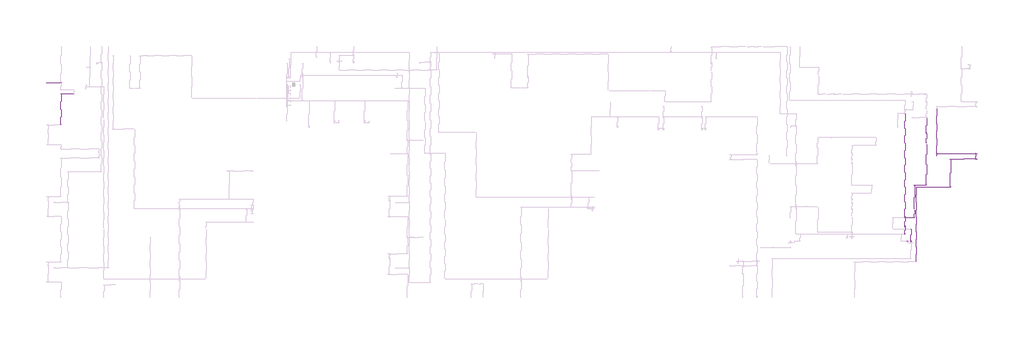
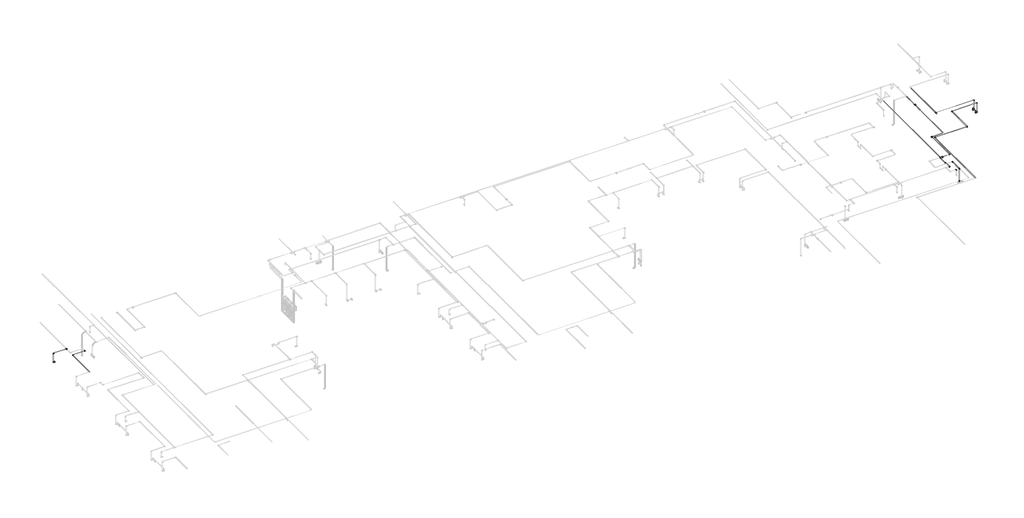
# One storey, part 13 of 40: 33 cable carrier segments, 25 cable carrier fittings, 3 alarms, 3 electric appliances.
"""IFC4 building model written with IfcOpenShell, lengths in millimetres."""

from ifc_helpers import new_model, si_unit, point, frame, frame_2d, origin, place, context, project, spatial, circle_curve, trimmed, segment, composite_curve, outline, extrude, transform, mapped, element, save
from ifc_brep_helpers import plane_surface, cylinder_surface, advanced_brep
from components import alarm_a2247946, cable_carrier_fitting_69f1a801, cable_carrier_fitting_8122f9af, cable_carrier_fitting_8fd13dfc, electric_appliance_5961a143

model = new_model("IFC4")

# Units and contexts
model_context = context("Model", 3, world=origin())
ifc_project = project(units=[si_unit("LENGTHUNIT", "METRE", prefix="MILLI")], contexts=[model_context])

# Site, building, storey
site = spatial("IfcSite", under=ifc_project)
building = spatial("IfcBuilding", under=site)
storey = spatial("IfcBuildingStorey", under=building, Name="1 этаж", Elevation=0.0)

# Alarms
placement = place(None, origin())
alarm_shape = alarm_a2247946(model_context)
element("IfcAlarm", 1, ObjectType="RBZ_ИзоляторШлейфа_Рубеж_ИЗ-1_прот.R3(плоскость) : ИЗ-1 прот.R3", at=placement, inside=storey, context=model_context, shape_type="MappedRepresentation", body=[
    mapped(alarm_shape, transform((17393.7902226, -535.3629895, 3200.74952), x_axis=(1.0, 0.0, 0.0), y_axis=(0.0, 1.0, 0.0), z_axis=(0.0, 0.0, 1.0))),
])
element("IfcAlarm", 2, ObjectType="RBZ_ИзоляторШлейфа_Рубеж_ИЗ-1_прот.R3(плоскость) : ИЗ-1 прот.R3", at=placement, inside=storey, context=model_context, shape_type="MappedRepresentation", body=[
    mapped(alarm_shape, transform((16630.1627365, -3840.5726854, 3200.74952), x_axis=(1.0, 0.0, 0.0), y_axis=(0.0, 1.0, 0.0), z_axis=(0.0, 0.0, 1.0))),
])
element("IfcAlarm", 3, ObjectType="RBZ_ИзоляторШлейфа_Рубеж_ИЗ-1_прот.R3(плоскость) : ИЗ-1 прот.R3", at=placement, inside=storey, context=model_context, shape_type="MappedRepresentation", body=[
    mapped(alarm_shape, transform((16127.6759979, -5905.3629895, 3200.74952), x_axis=(1.0, 0.0, 0.0), y_axis=(0.0, 1.0, 0.0), z_axis=(0.0, 0.0, 1.0))),
])

# Cable carrier fittings
cable_carrier_fitting_shape = cable_carrier_fitting_69f1a801(model_context)
element("IfcCableCarrierFitting", 4, ObjectType="ADSK_Поворот_Минимальный размер : Неспецифицируемый", at=placement, inside=storey, context=model_context, shape_type="MappedRepresentation", body=[
    mapped(cable_carrier_fitting_shape, transform((16403.9259968, -6629.1951839, 3190.0248857), x_axis=(0.0, 1.0, 0.0), y_axis=(-0.9999999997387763, 0.0, -2.2857109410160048e-05), z_axis=(-2.2857109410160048e-05, 0.0, 0.9999999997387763))),
])
element("IfcCableCarrierFitting", 5, ObjectType="ADSK_Поворот_Минимальный размер : Неспецифицируемый", at=placement, inside=storey, context=model_context, shape_type="MappedRepresentation", body=[
    mapped(cable_carrier_fitting_shape, transform((16630.1627365, -5905.3629895, 3189.99952), x_axis=(1.0, 0.0, 0.0), y_axis=(0.0, 1.0, 0.0), z_axis=(0.0, 0.0, 1.0))),
])
element("IfcCableCarrierFitting", 6, ObjectType="ADSK_Поворот_Минимальный размер : Неспецифицируемый", at=placement, inside=storey, context=model_context, shape_type="MappedRepresentation", body=[
    mapped(cable_carrier_fitting_shape, transform((-38370.3240021, 2662.1370105, 2535.1), x_axis=(-1.0, 0.0, 0.0), y_axis=(0.0, 0.0, 1.0), z_axis=(0.0, 1.0, 0.0))),
])
element("IfcCableCarrierFitting", 7, ObjectType="ADSK_Поворот_Минимальный размер : Неспецифицируемый", at=placement, inside=storey, context=model_context, shape_type="MappedRepresentation", body=[
    mapped(cable_carrier_fitting_shape, transform((-38370.3240021, 2662.1370105, 3187.0), x_axis=(0.0, 0.0, 1.0), y_axis=(1.0, 0.0, 0.0), z_axis=(0.0, 1.0, 0.0))),
])
element("IfcCableCarrierFitting", 8, ObjectType="ADSK_Поворот_Минимальный размер : Неспецифицируемый", at=placement, inside=storey, context=model_context, shape_type="MappedRepresentation", body=[
    mapped(cable_carrier_fitting_shape, transform((-37489.3240021, 1962.3808591, 3184.0), x_axis=(-1.0, 0.0, 0.0), y_axis=(0.0, -1.0, 0.0), z_axis=(0.0, 0.0, 1.0))),
])
element("IfcCableCarrierFitting", 9, ObjectType="ADSK_Поворот_Минимальный размер : Неспецифицируемый", at=placement, inside=storey, context=model_context, shape_type="MappedRepresentation", body=[
    mapped(cable_carrier_fitting_shape, transform((-36664.6678725, 1962.3808591, 3184.0), x_axis=(1.0, 0.0, 0.0), y_axis=(0.0, 1.0, 0.0), z_axis=(0.0, 0.0, 1.0))),
])
element("IfcCableCarrierFitting", 10, ObjectType="ADSK_Поворот_Минимальный размер : Неспецифицируемый", at=placement, inside=storey, context=model_context, shape_type="MappedRepresentation", body=[
    mapped(cable_carrier_fitting_shape, transform((20511.6759979, -2175.3629895, 2650.0), x_axis=(0.0, 0.0, 1.0), y_axis=(0.0, 1.0, 0.0), z_axis=(-1.0, 0.0, 0.0))),
])
element("IfcCableCarrierFitting", 11, ObjectType="ADSK_Поворот_Минимальный размер : Неспецифицируемый", at=placement, inside=storey, context=model_context, shape_type="MappedRepresentation", body=[
    mapped(cable_carrier_fitting_shape, transform((20511.6759979, -1835.3629895, 2650.0), x_axis=(0.0, 0.0, 1.0), y_axis=(0.0, -1.0, 0.0), z_axis=(1.0, 0.0, 0.0))),
])
element("IfcCableCarrierFitting", 12, ObjectType="ADSK_Поворот_Минимальный размер : Неспецифицируемый", at=placement, inside=storey, context=model_context, shape_type="MappedRepresentation", body=[
    mapped(cable_carrier_fitting_shape, transform((20611.8758035, -1835.3629895, 2535.0527319), x_axis=(1.0, 0.0, 0.0), y_axis=(0.0, 0.0, 1.0), z_axis=(0.0, -1.0, 0.0))),
])
element("IfcCableCarrierFitting", 13, ObjectType="ADSK_Поворот_Минимальный размер : Неспецифицируемый", at=placement, inside=storey, context=model_context, shape_type="MappedRepresentation", body=[
    mapped(cable_carrier_fitting_shape, transform((20611.8758035, -2175.3629895, 2535.0911237), x_axis=(1.0, 0.0, 0.0), y_axis=(0.0, 0.0, 1.0), z_axis=(0.0, -1.0, 0.0))),
])
element("IfcCableCarrierFitting", 14, ObjectType="ADSK_Поворот_Минимальный размер : Неспецифицируемый", at=placement, inside=storey, context=model_context, shape_type="MappedRepresentation", body=[
    mapped(cable_carrier_fitting_shape, transform((20611.8758035, -2175.3629895, 3187.0), x_axis=(0.0, 0.0, 1.0), y_axis=(-1.0, 0.0, 0.0), z_axis=(0.0, -1.0, 0.0))),
])
element("IfcCableCarrierFitting", 15, ObjectType="ADSK_Поворот_Минимальный размер : Неспецифицируемый", at=placement, inside=storey, context=model_context, shape_type="MappedRepresentation", body=[
    mapped(cable_carrier_fitting_shape, transform((16740.1759979, -3963.6860211, 3187.0), x_axis=(-1.0, 0.0, 0.0), y_axis=(0.0, -1.0, 0.0), z_axis=(0.0, 0.0, 1.0))),
])
element("IfcCableCarrierFitting", 16, ObjectType="ADSK_Поворот_Минимальный размер : Неспецифицируемый", at=placement, inside=storey, context=model_context, shape_type="MappedRepresentation", body=[
    mapped(cable_carrier_fitting_shape, transform((18914.6759979, -3963.6860211, 3187.0), x_axis=(1.0, 0.0, 0.0), y_axis=(0.0, 1.0, 0.0), z_axis=(0.0, 0.0, 1.0))),
])
element("IfcCableCarrierFitting", 17, ObjectType="ADSK_Поворот_Минимальный размер : Неспецифицируемый", at=placement, inside=storey, context=model_context, shape_type="MappedRepresentation", body=[
    mapped(cable_carrier_fitting_shape, transform((18914.6759979, -2175.3629895, 3187.0), x_axis=(-1.0, 0.0, 0.0), y_axis=(0.0, -1.0, 0.0), z_axis=(0.0, 0.0, 1.0))),
])
element("IfcCableCarrierFitting", 18, ObjectType="ADSK_Поворот_Минимальный размер : Неспецифицируемый", at=placement, inside=storey, context=model_context, shape_type="MappedRepresentation", body=[
    mapped(cable_carrier_fitting_shape, transform((16022.6759979, -6945.3629895, 3180.0), x_axis=(1.0, 0.0, 0.0), y_axis=(0.0, 1.0, 0.0), z_axis=(0.0, 0.0, 1.0))),
])
element("IfcCableCarrierFitting", 19, ObjectType="ADSK_Поворот_Минимальный размер : Неспецифицируемый", at=placement, inside=storey, context=model_context, shape_type="MappedRepresentation", body=[
    mapped(cable_carrier_fitting_shape, transform((16403.9259979, -7398.1631839, 2300.0), x_axis=(0.0, 1.0, 0.0), y_axis=(0.0, 0.0, 1.0), z_axis=(1.0, 0.0, 0.0))),
])
element("IfcCableCarrierFitting", 20, ObjectType="ADSK_Поворот_Минимальный размер : Неспецифицируемый", at=placement, inside=storey, context=model_context, shape_type="MappedRepresentation", body=[
    mapped(cable_carrier_fitting_shape, transform((20611.8758035, -1835.3629895, 3187.0), x_axis=(0.0, 0.0, 1.0), y_axis=(-1.0, 0.0, 0.0), z_axis=(0.0, -1.0, 0.0))),
])
element("IfcCableCarrierFitting", 21, ObjectType="ADSK_Поворот_Минимальный размер : Неспецифицируемый", at=placement, inside=storey, context=model_context, shape_type="MappedRepresentation", body=[
    mapped(cable_carrier_fitting_shape, transform((16199.9249252, -7398.1631839, 3180.0), x_axis=(0.0, 0.0, 1.0), y_axis=(-1.0, 0.0, 0.0), z_axis=(0.0, -1.0, 0.0))),
])
cable_carrier_fitting_2_shape = cable_carrier_fitting_8122f9af(model_context)
element("IfcCableCarrierFitting", 22, ObjectType="ADSK_Поворот_Минимальный размер : Неспецифицируемый", at=placement, inside=storey, context=model_context, shape_type="MappedRepresentation", body=[
    mapped(cable_carrier_fitting_2_shape, transform((16022.6759979, -5835.3629895, 3180.0), x_axis=(0.0, -1.0, 0.0), y_axis=(0.0, 0.0, -1.0), z_axis=(1.0, 0.0, 0.0))),
])
element("IfcCableCarrierFitting", 23, ObjectType="ADSK_Поворот_Минимальный размер : Неспецифицируемый", at=placement, inside=storey, context=model_context, shape_type="MappedRepresentation", body=[
    mapped(cable_carrier_fitting_2_shape, transform((16022.6759979, -5885.3629895, 3130.0), x_axis=(0.0, -0.7071067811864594, -0.7071067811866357), y_axis=(0.0, -0.7071067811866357, 0.7071067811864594), z_axis=(-1.0, 0.0, 0.0))),
])
element("IfcCableCarrierFitting", 24, ObjectType="ADSK_Поворот_Минимальный размер : Неспецифицируемый", at=placement, inside=storey, context=model_context, shape_type="MappedRepresentation", body=[
    mapped(cable_carrier_fitting_2_shape, transform((16022.6759979, -6425.3629895, 3130.0), x_axis=(0.0, -1.0, 0.0), y_axis=(0.0, 0.0, 1.0), z_axis=(-1.0, 0.0, 0.0))),
])
element("IfcCableCarrierFitting", 25, ObjectType="ADSK_Поворот_Минимальный размер : Неспецифицируемый", at=placement, inside=storey, context=model_context, shape_type="MappedRepresentation", body=[
    mapped(cable_carrier_fitting_2_shape, transform((16022.6759979, -6475.3629895, 3180.0), x_axis=(0.0, -0.7071067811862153, 0.7071067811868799), y_axis=(0.0, -0.7071067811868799, -0.7071067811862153), z_axis=(1.0, 0.0, 0.0))),
])
cable_carrier_fitting_3_shape = cable_carrier_fitting_8fd13dfc(model_context)
element("IfcCableCarrierFitting", 26, ObjectType="ADSK_Тройник : ПВХ", at=placement, inside=storey, context=model_context, shape_type="MappedRepresentation", body=[
    mapped(cable_carrier_fitting_3_shape, transform((-37489.3240021, 2662.1370105, 3187.0), x_axis=(0.0, -1.0, 0.0), y_axis=(1.0, 0.0, 0.0), z_axis=(0.0, 0.0, 1.0))),
])
element("IfcCableCarrierFitting", 27, ObjectType="ADSK_Тройник : ПВХ", at=placement, inside=storey, context=model_context, shape_type="MappedRepresentation", body=[
    mapped(cable_carrier_fitting_3_shape, transform((16403.9259974, -7398.1631839, 3190.0), x_axis=(0.0, 1.0, 0.0), y_axis=(0.0, 0.0, 1.0), z_axis=(1.0, 0.0, 0.0))),
])
element("IfcCableCarrierFitting", 28, ObjectType="ADSK_Тройник : ПВХ", at=placement, inside=storey, context=model_context, shape_type="MappedRepresentation", body=[
    mapped(cable_carrier_fitting_3_shape, transform((18037.6759979, -1835.3629895, 3187.0), x_axis=(0.0, 1.0, 0.0), y_axis=(-1.0, 0.0, 0.0), z_axis=(0.0, 0.0, 1.0))),
])

# Cable carrier segments
element("IfcCableCarrierSegment", 29, ObjectType="Гофрированная труба", at=placement, inside=storey, context=model_context, shape_type="SweptSolid", body=[
    extrude(outline(composite_curve([segment(trimmed(circle_curve(frame_2d((-5905.3629895, 3189.99952)), 10.0), [point((-5895.3629895, 3189.99952))], [point((-5905.3629895, 3179.99952))], False, "CARTESIAN"), True, "CONTINUOUS"), segment(trimmed(circle_curve(frame_2d((-5905.3629895, 3189.99952)), 10.0), [point((-5905.3629895, 3179.99952))], [point((-5915.3629895, 3189.99952))], False, "CARTESIAN"), True, "CONTINUOUS"), segment(trimmed(circle_curve(frame_2d((-5905.3629895, 3189.99952)), 10.0), [point((-5915.3629895, 3189.99952))], [point((-5905.3629895, 3199.99952))], False, "CARTESIAN"), True, "CONTINUOUS"), segment(trimmed(circle_curve(frame_2d((-5905.3629895, 3189.99952)), 10.0), [point((-5905.3629895, 3199.99952))], [point((-5895.3629895, 3189.99952))], False, "CARTESIAN"), True, "CONTINUOUS")], self_intersect=False)), frame((16153.6759979, 0.0, 0.0), z_axis=(1.0, 0.0, 0.0), x_axis=(0.0, 1.0, 0.0)), (0.0, 0.0, 1.0), 455.4867387),
])
element("IfcCableCarrierSegment", 30, ObjectType="Гофрированная труба", at=placement, inside=storey, context=model_context, shape_type="SweptSolid", body=[
    extrude(outline(composite_curve([segment(trimmed(circle_curve(frame_2d((3189.99952, 16630.1627365)), 10.0), [point((3189.99952, 16640.1627365))], [point((3199.99952, 16630.1627365))], False, "CARTESIAN"), True, "CONTINUOUS"), segment(trimmed(circle_curve(frame_2d((3189.99952, 16630.1627365)), 10.0), [point((3199.99952, 16630.1627365))], [point((3189.99952, 16620.1627365))], False, "CARTESIAN"), True, "CONTINUOUS"), segment(trimmed(circle_curve(frame_2d((3189.99952, 16630.1627365)), 10.0), [point((3189.99952, 16620.1627365))], [point((3179.99952, 16630.1627365))], False, "CARTESIAN"), True, "CONTINUOUS"), segment(trimmed(circle_curve(frame_2d((3189.99952, 16630.1627365)), 10.0), [point((3179.99952, 16630.1627365))], [point((3189.99952, 16640.1627365))], False, "CARTESIAN"), True, "CONTINUOUS")], self_intersect=False)), frame((0.0, -5884.3629895, 0.0), z_axis=(0.0, 1.0, 0.0), x_axis=(0.0, 0.0, 1.0)), (0.0, 0.0, 1.0), 432.5),
])
element("IfcCableCarrierSegment", 31, ObjectType="Гофрированная труба", at=placement, inside=storey, context=model_context, shape_type="SweptSolid", body=[
    extrude(outline(composite_curve([segment(trimmed(circle_curve(frame_2d((3189.99952, 16630.1627365)), 10.0), [point((3189.99952, 16620.1627365))], [point((3179.99952, 16630.1627365))], False, "CARTESIAN"), True, "CONTINUOUS"), segment(trimmed(circle_curve(frame_2d((3189.99952, 16630.1627365)), 10.0), [point((3179.99952, 16630.1627365))], [point((3189.99952, 16640.1627365))], False, "CARTESIAN"), True, "CONTINUOUS"), segment(trimmed(circle_curve(frame_2d((3189.99952, 16630.1627365)), 10.0), [point((3189.99952, 16640.1627365))], [point((3199.99952, 16630.1627365))], False, "CARTESIAN"), True, "CONTINUOUS"), segment(trimmed(circle_curve(frame_2d((3189.99952, 16630.1627365)), 10.0), [point((3199.99952, 16630.1627365))], [point((3189.99952, 16620.1627365))], False, "CARTESIAN"), True, "CONTINUOUS")], self_intersect=False)), frame((0.0, -5358.8629895, 0.0), z_axis=(0.0, 1.0, 0.0), x_axis=(0.0, 0.0, 1.0)), (0.0, 0.0, 1.0), 1492.290304),
])
element("IfcCableCarrierSegment", 32, ObjectType="Гофрированная труба", at=placement, inside=storey, context=model_context, shape_type="SweptSolid", body=[
    extrude(outline(composite_curve([segment(trimmed(circle_curve(frame_2d((-3840.5726854, 3189.99952)), 10.0), [point((-3830.5726854, 3189.99952))], [point((-3840.5726854, 3179.99952))], False, "CARTESIAN"), True, "CONTINUOUS"), segment(trimmed(circle_curve(frame_2d((-3840.5726854, 3189.99952)), 10.0), [point((-3840.5726854, 3179.99952))], [point((-3850.5726854, 3189.99952))], False, "CARTESIAN"), True, "CONTINUOUS"), segment(trimmed(circle_curve(frame_2d((-3840.5726854, 3189.99952)), 10.0), [point((-3850.5726854, 3189.99952))], [point((-3840.5726854, 3199.99952))], False, "CARTESIAN"), True, "CONTINUOUS"), segment(trimmed(circle_curve(frame_2d((-3840.5726854, 3189.99952)), 10.0), [point((-3840.5726854, 3199.99952))], [point((-3830.5726854, 3189.99952))], False, "CARTESIAN"), True, "CONTINUOUS")], self_intersect=False)), frame((16656.1627365, 0.0, 0.0), z_axis=(1.0, 0.0, 0.0), x_axis=(0.0, 1.0, 0.0)), (0.0, 0.0, 1.0), 691.1274861),
])
element("IfcCableCarrierSegment", 33, ObjectType="Гофрированная труба", at=placement, inside=storey, context=model_context, shape_type="SweptSolid", body=[
    extrude(outline(composite_curve([segment(trimmed(circle_curve(frame_2d((3189.99952, 17393.7902226)), 10.0), [point((3189.99952, 17403.7902226))], [point((3199.99952, 17393.7902226))], False, "CARTESIAN"), True, "CONTINUOUS"), segment(trimmed(circle_curve(frame_2d((3189.99952, 17393.7902226)), 10.0), [point((3199.99952, 17393.7902226))], [point((3189.99952, 17383.7902226))], False, "CARTESIAN"), True, "CONTINUOUS"), segment(trimmed(circle_curve(frame_2d((3189.99952, 17393.7902226)), 10.0), [point((3189.99952, 17383.7902226))], [point((3179.99952, 17393.7902226))], False, "CARTESIAN"), True, "CONTINUOUS"), segment(trimmed(circle_curve(frame_2d((3189.99952, 17393.7902226)), 10.0), [point((3179.99952, 17393.7902226))], [point((3189.99952, 17403.7902226))], False, "CARTESIAN"), True, "CONTINUOUS")], self_intersect=False)), frame((0.0, -3794.0726854, 0.0), z_axis=(0.0, 1.0, 0.0), x_axis=(0.0, 0.0, 1.0)), (0.0, 0.0, 1.0), 2525.0019021),
])
element("IfcCableCarrierSegment", 34, ObjectType="Гофрированная труба", at=placement, inside=storey, context=model_context, shape_type="SweptSolid", body=[
    extrude(outline(composite_curve([segment(trimmed(circle_curve(frame_2d((3189.99952, 17393.7902226)), 10.0), [point((3189.99952, 17383.7902226))], [point((3179.99952, 17393.7902226))], False, "CARTESIAN"), True, "CONTINUOUS"), segment(trimmed(circle_curve(frame_2d((3189.99952, 17393.7902226)), 10.0), [point((3179.99952, 17393.7902226))], [point((3189.99952, 17403.7902226))], False, "CARTESIAN"), True, "CONTINUOUS"), segment(trimmed(circle_curve(frame_2d((3189.99952, 17393.7902226)), 10.0), [point((3189.99952, 17403.7902226))], [point((3199.99952, 17393.7902226))], False, "CARTESIAN"), True, "CONTINUOUS"), segment(trimmed(circle_curve(frame_2d((3189.99952, 17393.7902226)), 10.0), [point((3199.99952, 17393.7902226))], [point((3189.99952, 17383.7902226))], False, "CARTESIAN"), True, "CONTINUOUS")], self_intersect=False)), frame((0.0, -1176.0707833, 0.0), z_axis=(0.0, 1.0, 0.0), x_axis=(0.0, 0.0, 1.0)), (0.0, 0.0, 1.0), 614.7077939),
])
element("IfcCableCarrierSegment", 35, ObjectType="Гофрированная труба", at=placement, inside=storey, context=model_context, shape_type="SweptSolid", body=[
    extrude(outline(composite_curve([segment(trimmed(circle_curve(frame_2d((3189.99952, 17393.7902226)), 10.0), [point((3190.0043576, 17403.7902215))], [point((3199.9995188, 17393.785385))], False, "CARTESIAN"), True, "CONTINUOUS"), segment(trimmed(circle_curve(frame_2d((3189.99952, 17393.7902226)), 10.0), [point((3199.9995188, 17393.785385))], [point((3189.9946824, 17383.7902238))], False, "CARTESIAN"), True, "CONTINUOUS"), segment(trimmed(circle_curve(frame_2d((3189.99952, 17393.7902226)), 10.0), [point((3189.9946824, 17383.7902238))], [point((3179.9995212, 17393.7950603))], False, "CARTESIAN"), True, "CONTINUOUS"), segment(trimmed(circle_curve(frame_2d((3189.99952, 17393.7902226)), 10.0), [point((3179.9995212, 17393.7950603))], [point((3190.0043576, 17403.7902215))], False, "CARTESIAN"), True, "CONTINUOUS")], self_intersect=False)), frame((0.0, -509.3629895, 0.0), z_axis=(0.0, 1.0, 0.0), x_axis=(0.0, 0.0, 1.0)), (0.0, 0.0, 1.0), 934.0000042),
])
element("IfcCableCarrierSegment", 36, ObjectType="Гофрированная труба", at=placement, inside=storey, context=model_context, shape_type="SweptSolid", body=[
    extrude(outline(composite_curve([segment(trimmed(circle_curve(frame_2d((2662.1370105, 3187.0)), 10.0), [point((2652.1370105, 3187.0))], [point((2662.1370105, 3197.0))], False, "CARTESIAN"), True, "CONTINUOUS"), segment(trimmed(circle_curve(frame_2d((2662.1370105, 3187.0)), 10.0), [point((2662.1370105, 3197.0))], [point((2672.1370105, 3187.0))], False, "CARTESIAN"), True, "CONTINUOUS"), segment(trimmed(circle_curve(frame_2d((2662.1370105, 3187.0)), 10.0), [point((2672.1370105, 3187.0))], [point((2662.1370105, 3177.0))], False, "CARTESIAN"), True, "CONTINUOUS"), segment(trimmed(circle_curve(frame_2d((2662.1370105, 3187.0)), 10.0), [point((2662.1370105, 3177.0))], [point((2652.1370105, 3187.0))], False, "CARTESIAN"), True, "CONTINUOUS")], self_intersect=False)), frame((-38349.3240021, 0.0, 0.0), z_axis=(1.0, 0.0, 0.0), x_axis=(0.0, 1.0, 0.0)), (0.0, 0.0, 1.0), 830.0),
])
element("IfcCableCarrierSegment", 37, ObjectType="Гофрированная труба", at=placement, inside=storey, context=model_context, shape_type="SweptSolid", body=[
    extrude(outline(composite_curve([segment(trimmed(circle_curve(frame_2d((-38370.3240021, 2662.1370105)), 10.0), [point((-38380.3240021, 2662.1370105))], [point((-38370.3240021, 2672.1370105))], False, "CARTESIAN"), True, "CONTINUOUS"), segment(trimmed(circle_curve(frame_2d((-38370.3240021, 2662.1370105)), 10.0), [point((-38370.3240021, 2672.1370105))], [point((-38360.3240021, 2662.1370105))], False, "CARTESIAN"), True, "CONTINUOUS"), segment(trimmed(circle_curve(frame_2d((-38370.3240021, 2662.1370105)), 10.0), [point((-38360.3240021, 2662.1370105))], [point((-38370.3240021, 2652.1370105))], False, "CARTESIAN"), True, "CONTINUOUS"), segment(trimmed(circle_curve(frame_2d((-38370.3240021, 2662.1370105)), 10.0), [point((-38370.3240021, 2652.1370105))], [point((-38380.3240021, 2662.1370105))], False, "CARTESIAN"), True, "CONTINUOUS")], self_intersect=False)), frame((0.0, 0.0, 2556.1), z_axis=(0.0, 0.0, 1.0), x_axis=(1.0, 0.0, 0.0)), (0.0, 0.0, 1.0), 609.9),
])
element("IfcCableCarrierSegment", 38, ObjectType="Гофрированная труба", at=placement, inside=storey, context=model_context, shape_type="SweptSolid", body=[
    extrude(outline(composite_curve([segment(trimmed(circle_curve(frame_2d((0.0, 10.0)), 10.0), [point((-10.0, 10.0))], [point((0.0, 20.0))], False, "CARTESIAN"), True, "CONTINUOUS"), segment(trimmed(circle_curve(frame_2d((0.0, 10.0)), 10.0), [point((0.0, 20.0))], [point((10.0, 10.0))], False, "CARTESIAN"), True, "CONTINUOUS"), segment(trimmed(circle_curve(frame_2d((0.0, 10.0)), 10.0), [point((10.0, 10.0))], [point((0.0, 0.0))], False, "CARTESIAN"), True, "CONTINUOUS"), segment(trimmed(circle_curve(frame_2d((0.0, 10.0)), 10.0), [point((0.0, 0.0))], [point((-10.0, 10.0))], False, "CARTESIAN"), True, "CONTINUOUS")], self_intersect=False)), frame((-38289.3254815, 2662.1370105, 2525.0911238), z_axis=(-0.9999999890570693, 0.0, 0.00014793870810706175), x_axis=(0.0, -1.0, 0.0)), (0.0, 0.0, 1.0), 60.0000007),
])
element("IfcCableCarrierSegment", 39, ObjectType="Гофрированная труба", at=placement, inside=storey, context=model_context, shape_type="SweptSolid", body=[
    extrude(outline(composite_curve([segment(trimmed(circle_curve(frame_2d((1962.3808591, 3184.0)), 10.0), [point((1952.3808591, 3184.0))], [point((1962.3808591, 3194.0))], False, "CARTESIAN"), True, "CONTINUOUS"), segment(trimmed(circle_curve(frame_2d((1962.3808591, 3184.0)), 10.0), [point((1962.3808591, 3194.0))], [point((1972.3808591, 3184.0))], False, "CARTESIAN"), True, "CONTINUOUS"), segment(trimmed(circle_curve(frame_2d((1962.3808591, 3184.0)), 10.0), [point((1972.3808591, 3184.0))], [point((1962.3808591, 3174.0))], False, "CARTESIAN"), True, "CONTINUOUS"), segment(trimmed(circle_curve(frame_2d((1962.3808591, 3184.0)), 10.0), [point((1962.3808591, 3174.0))], [point((1952.3808591, 3184.0))], False, "CARTESIAN"), True, "CONTINUOUS")], self_intersect=False)), frame((-37468.3240021, 0.0, 0.0), z_axis=(1.0, 0.0, 0.0), x_axis=(0.0, 1.0, 0.0)), (0.0, 0.0, 1.0), 782.6561296),
])
element("IfcCableCarrierSegment", 40, ObjectType="Гофрированная труба", at=placement, inside=storey, context=model_context, shape_type="SweptSolid", body=[
    extrude(outline(composite_curve([segment(trimmed(circle_curve(frame_2d((3184.0, -37489.3240021)), 10.0), [point((3184.0, -37479.3240021))], [point((3194.0, -37489.3240021))], False, "CARTESIAN"), True, "CONTINUOUS"), segment(trimmed(circle_curve(frame_2d((3184.0, -37489.3240021)), 10.0), [point((3194.0, -37489.3240021))], [point((3184.0, -37499.3240021))], False, "CARTESIAN"), True, "CONTINUOUS"), segment(trimmed(circle_curve(frame_2d((3184.0, -37489.3240021)), 10.0), [point((3184.0, -37499.3240021))], [point((3174.0, -37489.3240021))], False, "CARTESIAN"), True, "CONTINUOUS"), segment(trimmed(circle_curve(frame_2d((3184.0, -37489.3240021)), 10.0), [point((3174.0, -37489.3240021))], [point((3184.0, -37479.3240021))], False, "CARTESIAN"), True, "CONTINUOUS")], self_intersect=False)), frame((0.0, -2.8629895, 0.0), z_axis=(0.0, 1.0, 0.0), x_axis=(0.0, 0.0, 1.0)), (0.0, 0.0, 1.0), 1944.2438486),
])
element("IfcCableCarrierSegment", 41, ObjectType="Гофрированная труба", at=placement, inside=storey, context=model_context, shape_type="SweptSolid", body=[
    extrude(outline(composite_curve([segment(trimmed(circle_curve(frame_2d((3187.0, 18037.6759979)), 10.0), [point((3187.0, 18027.6759979))], [point((3177.0, 18037.6759979))], False, "CARTESIAN"), True, "CONTINUOUS"), segment(trimmed(circle_curve(frame_2d((3187.0, 18037.6759979)), 10.0), [point((3177.0, 18037.6759979))], [point((3187.0, 18047.6759979))], False, "CARTESIAN"), True, "CONTINUOUS"), segment(trimmed(circle_curve(frame_2d((3187.0, 18037.6759979)), 10.0), [point((3187.0, 18047.6759979))], [point((3197.0, 18037.6759979))], False, "CARTESIAN"), True, "CONTINUOUS"), segment(trimmed(circle_curve(frame_2d((3187.0, 18037.6759979)), 10.0), [point((3197.0, 18037.6759979))], [point((3187.0, 18027.6759979))], False, "CARTESIAN"), True, "CONTINUOUS")], self_intersect=False)), frame((0.0, -1982.8629895, 0.0), z_axis=(0.0, 1.0, 0.0), x_axis=(0.0, 0.0, 1.0)), (0.0, 0.0, 1.0), 117.5),
])
element("IfcCableCarrierSegment", 42, ObjectType="Гофрированная труба", at=placement, inside=storey, context=model_context, shape_type="SweptSolid", body=[
    extrude(outline(composite_curve([segment(trimmed(circle_curve(frame_2d((2650.0, 20511.6759979)), 10.0), [point((2650.0, 20521.6759979))], [point((2660.0, 20511.6759979))], False, "CARTESIAN"), True, "CONTINUOUS"), segment(trimmed(circle_curve(frame_2d((2650.0, 20511.6759979)), 10.0), [point((2660.0, 20511.6759979))], [point((2650.0, 20501.6759979))], False, "CARTESIAN"), True, "CONTINUOUS"), segment(trimmed(circle_curve(frame_2d((2650.0, 20511.6759979)), 10.0), [point((2650.0, 20501.6759979))], [point((2640.0, 20511.6759979))], False, "CARTESIAN"), True, "CONTINUOUS"), segment(trimmed(circle_curve(frame_2d((2650.0, 20511.6759979)), 10.0), [point((2640.0, 20511.6759979))], [point((2650.0, 20521.6759979))], False, "CARTESIAN"), True, "CONTINUOUS")], self_intersect=False)), frame((0.0, -2154.3629895, 0.0), z_axis=(0.0, 1.0, 0.0), x_axis=(0.0, 0.0, 1.0)), (0.0, 0.0, 1.0), 298.0),
])
element("IfcCableCarrierSegment", 43, ObjectType="Гофрированная труба", at=placement, inside=storey, context=model_context, shape_type="SweptSolid", body=[
    extrude(outline(composite_curve([segment(trimmed(circle_curve(frame_2d((20511.6759979, -1835.3629895)), 10.0), [point((20501.6759979, -1835.3629895))], [point((20511.6759979, -1825.3629895))], False, "CARTESIAN"), True, "CONTINUOUS"), segment(trimmed(circle_curve(frame_2d((20511.6759979, -1835.3629895)), 10.0), [point((20511.6759979, -1825.3629895))], [point((20521.6759979, -1835.3629895))], False, "CARTESIAN"), True, "CONTINUOUS"), segment(trimmed(circle_curve(frame_2d((20511.6759979, -1835.3629895)), 10.0), [point((20521.6759979, -1835.3629895))], [point((20511.6759979, -1845.3629895))], False, "CARTESIAN"), True, "CONTINUOUS"), segment(trimmed(circle_curve(frame_2d((20511.6759979, -1835.3629895)), 10.0), [point((20511.6759979, -1845.3629895))], [point((20501.6759979, -1835.3629895))], False, "CARTESIAN"), True, "CONTINUOUS")], self_intersect=False)), frame((0.0, 0.0, 2564.0823197), z_axis=(0.0, 0.0, 1.0), x_axis=(1.0, 0.0, 0.0)), (0.0, 0.0, 1.0), 64.9176803),
])
element("IfcCableCarrierSegment", 44, ObjectType="Гофрированная труба", at=placement, inside=storey, context=model_context, shape_type="SweptSolid", body=[
    extrude(outline(composite_curve([segment(trimmed(circle_curve(frame_2d((20511.6759979, -2175.3629895)), 10.0), [point((20501.6759979, -2175.3629895))], [point((20511.6759979, -2165.3629895))], False, "CARTESIAN"), True, "CONTINUOUS"), segment(trimmed(circle_curve(frame_2d((20511.6759979, -2175.3629895)), 10.0), [point((20511.6759979, -2165.3629895))], [point((20521.6759979, -2175.3629895))], False, "CARTESIAN"), True, "CONTINUOUS"), segment(trimmed(circle_curve(frame_2d((20511.6759979, -2175.3629895)), 10.0), [point((20521.6759979, -2175.3629895))], [point((20511.6759979, -2185.3629895))], False, "CARTESIAN"), True, "CONTINUOUS"), segment(trimmed(circle_curve(frame_2d((20511.6759979, -2175.3629895)), 10.0), [point((20511.6759979, -2185.3629895))], [point((20501.6759979, -2175.3629895))], False, "CARTESIAN"), True, "CONTINUOUS")], self_intersect=False)), frame((0.0, 0.0, 2564.1207114), z_axis=(0.0, 0.0, 1.0), x_axis=(1.0, 0.0, 0.0)), (0.0, 0.0, 1.0), 64.8792886),
])
element("IfcCableCarrierSegment", 45, ObjectType="Гофрированная труба", at=placement, inside=storey, context=model_context, shape_type="SweptSolid", body=[
    extrude(outline(composite_curve([segment(trimmed(circle_curve(frame_2d((-1835.3629895, 3187.0)), 10.0), [point((-1825.3629895, 3187.0))], [point((-1835.3629895, 3177.0))], False, "CARTESIAN"), True, "CONTINUOUS"), segment(trimmed(circle_curve(frame_2d((-1835.3629895, 3187.0)), 10.0), [point((-1835.3629895, 3177.0))], [point((-1845.3629895, 3187.0))], False, "CARTESIAN"), True, "CONTINUOUS"), segment(trimmed(circle_curve(frame_2d((-1835.3629895, 3187.0)), 10.0), [point((-1845.3629895, 3187.0))], [point((-1835.3629895, 3197.0))], False, "CARTESIAN"), True, "CONTINUOUS"), segment(trimmed(circle_curve(frame_2d((-1835.3629895, 3187.0)), 10.0), [point((-1835.3629895, 3197.0))], [point((-1825.3629895, 3187.0))], False, "CARTESIAN"), True, "CONTINUOUS")], self_intersect=False)), frame((18067.6759979, 0.0, 0.0), z_axis=(1.0, 0.0, 0.0), x_axis=(0.0, 1.0, 0.0)), (0.0, 0.0, 1.0), 2523.1998056),
])
element("IfcCableCarrierSegment", 46, ObjectType="Гофрированная труба", at=placement, inside=storey, context=model_context, shape_type="SweptSolid", body=[
    extrude(outline(composite_curve([segment(trimmed(circle_curve(frame_2d((-1835.3629895, 2535.0527319)), 10.0), [point((-1845.3629895, 2535.0527319))], [point((-1835.3629895, 2545.0527319))], False, "CARTESIAN"), True, "CONTINUOUS"), segment(trimmed(circle_curve(frame_2d((-1835.3629895, 2535.0527319)), 10.0), [point((-1835.3629895, 2545.0527319))], [point((-1825.3629895, 2535.0527319))], False, "CARTESIAN"), True, "CONTINUOUS"), segment(trimmed(circle_curve(frame_2d((-1835.3629895, 2535.0527319)), 10.0), [point((-1825.3629895, 2535.0527319))], [point((-1835.3629895, 2525.0527319))], False, "CARTESIAN"), True, "CONTINUOUS"), segment(trimmed(circle_curve(frame_2d((-1835.3629895, 2535.0527319)), 10.0), [point((-1835.3629895, 2525.0527319))], [point((-1845.3629895, 2535.0527319))], False, "CARTESIAN"), True, "CONTINUOUS")], self_intersect=False)), frame((20514.6759979, 0.0, 0.0), z_axis=(1.0, 0.0, 0.0), x_axis=(0.0, 1.0, 0.0)), (0.0, 0.0, 1.0), 76.1998056),
])
element("IfcCableCarrierSegment", 47, ObjectType="Гофрированная труба", at=placement, inside=storey, context=model_context, shape_type="SweptSolid", body=[
    extrude(outline(composite_curve([segment(trimmed(circle_curve(frame_2d((20611.8758035, -1835.3629895)), 10.0), [point((20601.8758035, -1835.3629895))], [point((20611.8758035, -1825.3629895))], False, "CARTESIAN"), True, "CONTINUOUS"), segment(trimmed(circle_curve(frame_2d((20611.8758035, -1835.3629895)), 10.0), [point((20611.8758035, -1825.3629895))], [point((20621.8758035, -1835.3629895))], False, "CARTESIAN"), True, "CONTINUOUS"), segment(trimmed(circle_curve(frame_2d((20611.8758035, -1835.3629895)), 10.0), [point((20621.8758035, -1835.3629895))], [point((20611.8758035, -1845.3629895))], False, "CARTESIAN"), True, "CONTINUOUS"), segment(trimmed(circle_curve(frame_2d((20611.8758035, -1835.3629895)), 10.0), [point((20611.8758035, -1845.3629895))], [point((20601.8758035, -1835.3629895))], False, "CARTESIAN"), True, "CONTINUOUS")], self_intersect=False)), frame((0.0, 0.0, 2556.0527319), z_axis=(0.0, 0.0, 1.0), x_axis=(1.0, 0.0, 0.0)), (0.0, 0.0, 1.0), 609.9472681),
])
element("IfcCableCarrierSegment", 48, ObjectType="Гофрированная труба", at=placement, inside=storey, context=model_context, shape_type="SweptSolid", body=[
    extrude(outline(composite_curve([segment(trimmed(circle_curve(frame_2d((-2175.3629895, 3187.0)), 10.0), [point((-2165.3629895, 3187.0))], [point((-2175.3629895, 3177.0))], False, "CARTESIAN"), True, "CONTINUOUS"), segment(trimmed(circle_curve(frame_2d((-2175.3629895, 3187.0)), 10.0), [point((-2175.3629895, 3177.0))], [point((-2185.3629895, 3187.0))], False, "CARTESIAN"), True, "CONTINUOUS"), segment(trimmed(circle_curve(frame_2d((-2175.3629895, 3187.0)), 10.0), [point((-2185.3629895, 3187.0))], [point((-2175.3629895, 3197.0))], False, "CARTESIAN"), True, "CONTINUOUS"), segment(trimmed(circle_curve(frame_2d((-2175.3629895, 3187.0)), 10.0), [point((-2175.3629895, 3197.0))], [point((-2165.3629895, 3187.0))], False, "CARTESIAN"), True, "CONTINUOUS")], self_intersect=False)), frame((18935.6759979, 0.0, 0.0), z_axis=(1.0, 0.0, 0.0), x_axis=(0.0, 1.0, 0.0)), (0.0, 0.0, 1.0), 1655.1998056),
])
element("IfcCableCarrierSegment", 49, ObjectType="Гофрированная труба", at=placement, inside=storey, context=model_context, shape_type="SweptSolid", body=[
    extrude(outline(composite_curve([segment(trimmed(circle_curve(frame_2d((-2175.3629895, 2535.0911237)), 10.0), [point((-2185.3629895, 2535.0911237))], [point((-2175.3629895, 2545.0911237))], False, "CARTESIAN"), True, "CONTINUOUS"), segment(trimmed(circle_curve(frame_2d((-2175.3629895, 2535.0911237)), 10.0), [point((-2175.3629895, 2545.0911237))], [point((-2165.3629895, 2535.0911237))], False, "CARTESIAN"), True, "CONTINUOUS"), segment(trimmed(circle_curve(frame_2d((-2175.3629895, 2535.0911237)), 10.0), [point((-2165.3629895, 2535.0911237))], [point((-2175.3629895, 2525.0911237))], False, "CARTESIAN"), True, "CONTINUOUS"), segment(trimmed(circle_curve(frame_2d((-2175.3629895, 2535.0911237)), 10.0), [point((-2175.3629895, 2525.0911237))], [point((-2185.3629895, 2535.0911237))], False, "CARTESIAN"), True, "CONTINUOUS")], self_intersect=False)), frame((20514.6759979, 0.0, 0.0), z_axis=(1.0, 0.0, 0.0), x_axis=(0.0, 1.0, 0.0)), (0.0, 0.0, 1.0), 76.1998056),
])
element("IfcCableCarrierSegment", 50, ObjectType="Гофрированная труба", at=placement, inside=storey, context=model_context, shape_type="SweptSolid", body=[
    extrude(outline(composite_curve([segment(trimmed(circle_curve(frame_2d((20611.8758035, -2175.3629895)), 10.0), [point((20601.8758035, -2175.3629895))], [point((20611.8758035, -2165.3629895))], False, "CARTESIAN"), True, "CONTINUOUS"), segment(trimmed(circle_curve(frame_2d((20611.8758035, -2175.3629895)), 10.0), [point((20611.8758035, -2165.3629895))], [point((20621.8758035, -2175.3629895))], False, "CARTESIAN"), True, "CONTINUOUS"), segment(trimmed(circle_curve(frame_2d((20611.8758035, -2175.3629895)), 10.0), [point((20621.8758035, -2175.3629895))], [point((20611.8758035, -2185.3629895))], False, "CARTESIAN"), True, "CONTINUOUS"), segment(trimmed(circle_curve(frame_2d((20611.8758035, -2175.3629895)), 10.0), [point((20611.8758035, -2185.3629895))], [point((20601.8758035, -2175.3629895))], False, "CARTESIAN"), True, "CONTINUOUS")], self_intersect=False)), frame((0.0, 0.0, 2556.0911237), z_axis=(0.0, 0.0, 1.0), x_axis=(1.0, 0.0, 0.0)), (0.0, 0.0, 1.0), 609.9088763),
])
element("IfcCableCarrierSegment", 51, ObjectType="Гофрированная труба", at=placement, inside=storey, context=model_context, shape_type="SweptSolid", body=[
    extrude(outline(composite_curve([segment(trimmed(circle_curve(frame_2d((3187.0, 18914.6759979)), 10.0), [point((3187.0, 18924.6759979))], [point((3197.0, 18914.6759979))], False, "CARTESIAN"), True, "CONTINUOUS"), segment(trimmed(circle_curve(frame_2d((3187.0, 18914.6759979)), 10.0), [point((3197.0, 18914.6759979))], [point((3187.0, 18904.6759979))], False, "CARTESIAN"), True, "CONTINUOUS"), segment(trimmed(circle_curve(frame_2d((3187.0, 18914.6759979)), 10.0), [point((3187.0, 18904.6759979))], [point((3177.0, 18914.6759979))], False, "CARTESIAN"), True, "CONTINUOUS"), segment(trimmed(circle_curve(frame_2d((3187.0, 18914.6759979)), 10.0), [point((3177.0, 18914.6759979))], [point((3187.0, 18924.6759979))], False, "CARTESIAN"), True, "CONTINUOUS")], self_intersect=False)), frame((0.0, -3942.6860211, 0.0), z_axis=(0.0, 1.0, 0.0), x_axis=(0.0, 0.0, 1.0)), (0.0, 0.0, 1.0), 1746.3230317),
])
element("IfcCableCarrierSegment", 52, ObjectType="Гофрированная труба", at=placement, inside=storey, context=model_context, shape_type="SweptSolid", body=[
    extrude(outline(composite_curve([segment(trimmed(circle_curve(frame_2d((3187.0, 16740.1759979)), 10.0), [point((3187.0, 16750.1759979))], [point((3197.0, 16740.1759979))], False, "CARTESIAN"), True, "CONTINUOUS"), segment(trimmed(circle_curve(frame_2d((3187.0, 16740.1759979)), 10.0), [point((3197.0, 16740.1759979))], [point((3187.0, 16730.1759979))], False, "CARTESIAN"), True, "CONTINUOUS"), segment(trimmed(circle_curve(frame_2d((3187.0, 16740.1759979)), 10.0), [point((3187.0, 16730.1759979))], [point((3177.0, 16740.1759979))], False, "CARTESIAN"), True, "CONTINUOUS"), segment(trimmed(circle_curve(frame_2d((3187.0, 16740.1759979)), 10.0), [point((3177.0, 16740.1759979))], [point((3187.0, 16750.1759979))], False, "CARTESIAN"), True, "CONTINUOUS")], self_intersect=False)), frame((0.0, -8686.8629895, 0.0), z_axis=(0.0, 1.0, 0.0), x_axis=(0.0, 0.0, 1.0)), (0.0, 0.0, 1.0), 4702.1769683),
])
element("IfcCableCarrierSegment", 53, ObjectType="Гофрированная труба", at=placement, inside=storey, context=model_context, shape_type="SweptSolid", body=[
    extrude(outline(composite_curve([segment(trimmed(circle_curve(frame_2d((-3963.6860211, 3187.0)), 10.0), [point((-3973.6860211, 3187.0))], [point((-3963.6860211, 3197.0))], False, "CARTESIAN"), True, "CONTINUOUS"), segment(trimmed(circle_curve(frame_2d((-3963.6860211, 3187.0)), 10.0), [point((-3963.6860211, 3197.0))], [point((-3953.6860211, 3187.0))], False, "CARTESIAN"), True, "CONTINUOUS"), segment(trimmed(circle_curve(frame_2d((-3963.6860211, 3187.0)), 10.0), [point((-3953.6860211, 3187.0))], [point((-3963.6860211, 3177.0))], False, "CARTESIAN"), True, "CONTINUOUS"), segment(trimmed(circle_curve(frame_2d((-3963.6860211, 3187.0)), 10.0), [point((-3963.6860211, 3177.0))], [point((-3973.6860211, 3187.0))], False, "CARTESIAN"), True, "CONTINUOUS")], self_intersect=False)), frame((16761.1759979, 0.0, 0.0), z_axis=(1.0, 0.0, 0.0), x_axis=(0.0, 1.0, 0.0)), (0.0, 0.0, 1.0), 2132.5),
])
element("IfcCableCarrierSegment", 54, ObjectType="Гофрированная труба", at=placement, inside=storey, context=model_context, shape_type="SweptSolid", body=[
    extrude(outline(composite_curve([segment(trimmed(circle_curve(frame_2d((3180.0, 16022.6759979)), 10.0), [point((3180.0, 16032.6759979))], [point((3190.0, 16022.6759979))], False, "CARTESIAN"), True, "CONTINUOUS"), segment(trimmed(circle_curve(frame_2d((3180.0, 16022.6759979)), 10.0), [point((3190.0, 16022.6759979))], [point((3180.0, 16012.6759979))], False, "CARTESIAN"), True, "CONTINUOUS"), segment(trimmed(circle_curve(frame_2d((3180.0, 16022.6759979)), 10.0), [point((3180.0, 16012.6759979))], [point((3170.0, 16022.6759979))], False, "CARTESIAN"), True, "CONTINUOUS"), segment(trimmed(circle_curve(frame_2d((3180.0, 16022.6759979)), 10.0), [point((3170.0, 16022.6759979))], [point((3180.0, 16032.6759979))], False, "CARTESIAN"), True, "CONTINUOUS")], self_intersect=False)), frame((0.0, -6924.3629895, 0.0), z_axis=(0.0, 1.0, 0.0), x_axis=(0.0, 0.0, 1.0)), (0.0, 0.0, 1.0), 439.7157288),
])
element("IfcCableCarrierSegment", 55, ObjectType="Гофрированная труба", at=placement, inside=storey, context=model_context, shape_type="SweptSolid", body=[
    extrude(outline(composite_curve([segment(trimmed(circle_curve(frame_2d((3130.0, 16022.6759979)), 10.0), [point((3130.0, 16012.6759979))], [point((3120.0, 16022.6759979))], False, "CARTESIAN"), True, "CONTINUOUS"), segment(trimmed(circle_curve(frame_2d((3130.0, 16022.6759979)), 10.0), [point((3120.0, 16022.6759979))], [point((3130.0, 16032.6759979))], False, "CARTESIAN"), True, "CONTINUOUS"), segment(trimmed(circle_curve(frame_2d((3130.0, 16022.6759979)), 10.0), [point((3130.0, 16032.6759979))], [point((3140.0, 16022.6759979))], False, "CARTESIAN"), True, "CONTINUOUS"), segment(trimmed(circle_curve(frame_2d((3130.0, 16022.6759979)), 10.0), [point((3140.0, 16022.6759979))], [point((3130.0, 16012.6759979))], False, "CARTESIAN"), True, "CONTINUOUS")], self_intersect=False)), frame((0.0, -6416.0787182, 0.0), z_axis=(0.0, 1.0, 0.0), x_axis=(0.0, 0.0, 1.0)), (0.0, 0.0, 1.0), 521.4314575),
])
element("IfcCableCarrierSegment", 56, ObjectType="Гофрированная труба", at=placement, inside=storey, context=model_context, shape_type="SweptSolid", body=[
    extrude(outline(composite_curve([segment(trimmed(circle_curve(frame_2d((3180.0, 16022.6759979)), 10.0), [point((3180.0, 16012.6759979))], [point((3170.0, 16022.6759979))], False, "CARTESIAN"), True, "CONTINUOUS"), segment(trimmed(circle_curve(frame_2d((3180.0, 16022.6759979)), 10.0), [point((3170.0, 16022.6759979))], [point((3180.0, 16032.6759979))], False, "CARTESIAN"), True, "CONTINUOUS"), segment(trimmed(circle_curve(frame_2d((3180.0, 16022.6759979)), 10.0), [point((3180.0, 16032.6759979))], [point((3190.0, 16022.6759979))], False, "CARTESIAN"), True, "CONTINUOUS"), segment(trimmed(circle_curve(frame_2d((3180.0, 16022.6759979)), 10.0), [point((3190.0, 16022.6759979))], [point((3180.0, 16012.6759979))], False, "CARTESIAN"), True, "CONTINUOUS")], self_intersect=False)), frame((0.0, -5826.0787182, 0.0), z_axis=(0.0, 1.0, 0.0), x_axis=(0.0, 0.0, 1.0)), (0.0, 0.0, 1.0), 6520.7157288),
])
element("IfcCableCarrierSegment", 57, ObjectType="Гофрированная труба", at=placement, inside=storey, context=model_context, shape_type="SweptSolid", body=[
    extrude(outline(composite_curve([segment(trimmed(circle_curve(frame_2d((0.0, -10.0000001)), 10.0), [point((-10.0, -10.0000001))], [point((0.0, 0.0))], False, "CARTESIAN"), True, "CONTINUOUS"), segment(trimmed(circle_curve(frame_2d((0.0, -10.0000001)), 10.0), [point((0.0, 0.0))], [point((10.0, -10.0000001))], False, "CARTESIAN"), True, "CONTINUOUS"), segment(trimmed(circle_curve(frame_2d((0.0, -10.0000001)), 10.0), [point((10.0, -10.0000001))], [point((0.0, -20.0))], False, "CARTESIAN"), True, "CONTINUOUS"), segment(trimmed(circle_curve(frame_2d((0.0, -10.0000001)), 10.0), [point((0.0, -20.0))], [point((-10.0, -10.0000001))], False, "CARTESIAN"), True, "CONTINUOUS")], self_intersect=False)), frame((16022.6759979, -5871.7269505, 3129.4939033), z_axis=(0.0, 0.7071067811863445, 0.7071067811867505), x_axis=(1.0, 0.0, 0.0)), (0.0, 0.0, 1.0), 52.1421356),
])
element("IfcCableCarrierSegment", 58, ObjectType="Гофрированная труба", at=placement, inside=storey, context=model_context, shape_type="SweptSolid", body=[
    extrude(outline(composite_curve([segment(trimmed(circle_curve(frame_2d((0.0, 10.0000001)), 10.0), [point((-10.0, 10.0000001))], [point((0.0, 20.0))], False, "CARTESIAN"), True, "CONTINUOUS"), segment(trimmed(circle_curve(frame_2d((0.0, 10.0000001)), 10.0), [point((0.0, 20.0))], [point((10.0, 10.0000001))], False, "CARTESIAN"), True, "CONTINUOUS"), segment(trimmed(circle_curve(frame_2d((0.0, 10.0000001)), 10.0), [point((10.0, 10.0000001))], [point((0.0, 0.0))], False, "CARTESIAN"), True, "CONTINUOUS"), segment(trimmed(circle_curve(frame_2d((0.0, 10.0000001)), 10.0), [point((0.0, 0.0))], [point((-10.0, 10.0000001))], False, "CARTESIAN"), True, "CONTINUOUS")], self_intersect=False)), frame((16022.6759979, -6438.9990284, 3129.4939033), z_axis=(0.0, -0.7071067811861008, 0.7071067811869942), x_axis=(1.0, 0.0, 0.0)), (0.0, 0.0, 1.0), 52.1421356),
])
element("IfcCableCarrierSegment", 59, ObjectType="Гофрированная труба", at=placement, inside=storey, context=model_context, shape_type="AdvancedBrep", body=[
    advanced_brep(
    [(16393.9259979, -7398.1631839, 2321.0), (16403.9259979, -7388.1631839, 2321.0), (16413.9259979, -7398.1631839, 2321.0), (16403.9259979, -7408.1631839, 2321.0), (16393.9259974, -7398.1631839, 3160.0), (16403.9259974, -7408.1631839, 3160.0), (16413.9259974, -7398.1631839, 3160.0), (16403.9259974, -7388.1631839, 3160.0)],
    [
        (0, 1, circle_curve(frame((16403.9259979, -7398.1631839, 2321.0), z_axis=(0.0, 0.0, -1.0), x_axis=(-1.0, 0.0, 0.0)), 10.0)),
        (1, 2, circle_curve(frame((16403.9259979, -7398.1631839, 2321.0), z_axis=(0.0, 0.0, -1.0), x_axis=(-1.0, 0.0, 0.0)), 10.0)),
        (2, 3, circle_curve(frame((16403.9259979, -7398.1631839, 2321.0), z_axis=(0.0, 0.0, -1.0), x_axis=(-1.0, 0.0, 0.0)), 10.0)),
        (3, 0, circle_curve(frame((16403.9259979, -7398.1631839, 2321.0), z_axis=(0.0, 0.0, -1.0), x_axis=(-1.0, 0.0, 0.0)), 10.0)),
        (4, 5, circle_curve(frame((16403.9259979, -7398.1631839, 3160.0), z_axis=(0.0, 0.0, 1.0), x_axis=(-1.0, 0.0, 0.0)), 10.0000005)),
        (5, 6, circle_curve(frame((16403.9259979, -7398.1631839, 3160.0), z_axis=(0.0, 0.0, 1.0), x_axis=(-1.0, 0.0, 0.0)), 10.0)),
        (6, 7, circle_curve(frame((16403.9259979, -7398.1631839, 3160.0), z_axis=(0.0, 0.0, 1.0), x_axis=(-1.0, 0.0, 0.0)), 9.9999995)),
        (7, 4, circle_curve(frame((16403.9259979, -7398.1631839, 3160.0), z_axis=(0.0, 0.0, 1.0), x_axis=(-1.0, 0.0, 0.0)), 10.0)),
        (0, 4),
        (7, 1),
        (6, 2),
        (5, 3),
    ],
    [
        plane_surface(frame((16403.9259979, -7408.1631839, 2321.0), z_axis=(0.0, 0.0, -1.0), x_axis=(1.0, 0.0, 0.0))),
        plane_surface(frame((16403.9259974, -7408.1631839, 3160.0), z_axis=(0.0, 0.0, 1.0), x_axis=(1.0, 0.0, 0.0))),
        cylinder_surface(frame((16403.9259979, -7398.1631839, 2321.0), z_axis=(0.0, 0.0, -1.0), x_axis=(-1.0, 0.0, 0.0)), 10.0),
    ],
    [
        (0, [[1, 2, 3, 4]]),
        (1, [[5, 6, 7, 8]]),
        (2, [[-1, 9, -8, 10]]),
        (2, [[-2, -10, -7, 11]]),
        (2, [[-3, -11, -6, 12]]),
        (2, [[-4, -12, -5, -9]]),
    ],
),
])
element("IfcCableCarrierSegment", 60, ObjectType="Гофрированная труба", at=placement, inside=storey, context=model_context, shape_type="AdvancedBrep", body=[
    advanced_brep(
    [(16393.9259968, -6650.1951839, 3190.0248857), (16403.9259968, -6650.1955305, 3200.0248857), (16413.9259968, -6650.1951839, 3190.0248857), (16403.9259968, -6650.1948373, 3180.0248857), (16393.9259974, -7368.1631839, 3190.0), (16403.9259974, -7368.1628373, 3180.0), (16413.9259974, -7368.1631839, 3190.0), (16403.9259974, -7368.1635305, 3200.0)],
    [
        (0, 1, circle_curve(frame((16403.9259968, -6650.1951839, 3190.0248857), z_axis=(0.0, 0.9999999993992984, 3.466126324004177e-05), x_axis=(-1.0, 0.0, 0.0)), 10.0)),
        (1, 2, circle_curve(frame((16403.9259968, -6650.1951839, 3190.0248857), z_axis=(0.0, 0.9999999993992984, 3.466126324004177e-05), x_axis=(-1.0, 0.0, 0.0)), 10.0)),
        (2, 3, circle_curve(frame((16403.9259968, -6650.1951839, 3190.0248857), z_axis=(0.0, 0.9999999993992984, 3.466126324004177e-05), x_axis=(-1.0, 0.0, 0.0)), 10.0)),
        (3, 0, circle_curve(frame((16403.9259968, -6650.1951839, 3190.0248857), z_axis=(0.0, 0.9999999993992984, 3.466126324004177e-05), x_axis=(-1.0, 0.0, 0.0)), 10.0)),
        (4, 5, circle_curve(frame((16403.9259968, -7368.1631839, 3190.0), z_axis=(0.0, -0.9999999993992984, -3.466126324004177e-05), x_axis=(-1.0, 0.0, 0.0)), 9.9999994)),
        (5, 6, circle_curve(frame((16403.9259968, -7368.1631839, 3190.0), z_axis=(0.0, -0.9999999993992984, -3.466126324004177e-05), x_axis=(-1.0, 0.0, 0.0)), 10.0)),
        (6, 7, circle_curve(frame((16403.9259968, -7368.1631839, 3190.0), z_axis=(0.0, -0.9999999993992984, -3.466126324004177e-05), x_axis=(-1.0, 0.0, 0.0)), 10.0000006)),
        (7, 4, circle_curve(frame((16403.9259968, -7368.1631839, 3190.0), z_axis=(0.0, -0.9999999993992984, -3.466126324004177e-05), x_axis=(-1.0, 0.0, 0.0)), 10.0)),
        (0, 4),
        (7, 1),
        (6, 2),
        (5, 3),
    ],
    [
        plane_surface(frame((16393.9259968, -6650.1951839, 3190.0248857), z_axis=(-7.922797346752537e-10, 0.9999999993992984, 3.46612632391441e-05), x_axis=(0.0, 3.46612632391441e-05, -0.9999999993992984))),
        plane_surface(frame((16393.9259974, -7368.1631839, 3190.0), z_axis=(7.922797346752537e-10, -0.9999999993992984, -3.46612632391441e-05), x_axis=(0.0, 3.46612632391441e-05, -0.9999999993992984))),
        cylinder_surface(frame((16403.9259968, -6650.1951839, 3190.0248857), z_axis=(0.0, 0.9999999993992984, 3.466126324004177e-05), x_axis=(-1.0, 0.0, 0.0)), 10.0),
    ],
    [
        (0, [[1, 2, 3, 4]]),
        (1, [[5, 6, 7, 8]]),
        (2, [[-1, 9, -8, 10]]),
        (2, [[-2, -10, -7, 11]]),
        (2, [[-3, -11, -6, 12]]),
        (2, [[-4, -12, -5, -9]]),
    ],
),
])
element("IfcCableCarrierSegment", 61, ObjectType="Гофрированная труба", at=placement, inside=storey, context=model_context, shape_type="SweptSolid", body=[
    extrude(outline(composite_curve([segment(trimmed(circle_curve(frame_2d((3187.0, 18037.6759979)), 10.0), [point((3187.0, 18027.6759979))], [point((3177.0, 18037.6759979))], False, "CARTESIAN"), True, "CONTINUOUS"), segment(trimmed(circle_curve(frame_2d((3187.0, 18037.6759979)), 10.0), [point((3177.0, 18037.6759979))], [point((3187.0, 18047.6759979))], False, "CARTESIAN"), True, "CONTINUOUS"), segment(trimmed(circle_curve(frame_2d((3187.0, 18037.6759979)), 10.0), [point((3187.0, 18047.6759979))], [point((3197.0, 18037.6759979))], False, "CARTESIAN"), True, "CONTINUOUS"), segment(trimmed(circle_curve(frame_2d((3187.0, 18037.6759979)), 10.0), [point((3197.0, 18037.6759979))], [point((3187.0, 18027.6759979))], False, "CARTESIAN"), True, "CONTINUOUS")], self_intersect=False)), frame((0.0, -1805.3629895, 0.0), z_axis=(0.0, 1.0, 0.0), x_axis=(0.0, 0.0, 1.0)), (0.0, 0.0, 1.0), 2817.5382172),
])

# Electric appliances
electric_appliance_shape = electric_appliance_5961a143(model_context)
element("IfcElectricAppliance", 62, ObjectType="RBZ_Извещатель_ОхранныйМагнитоуправляемый _Рубеж_ИО 10220-2(грань) : ИО 10220-2", at=placement, inside=storey, context=model_context, shape_type="MappedRepresentation", body=[
    mapped(electric_appliance_shape, transform((-38289.3240021, 2662.1370105, 2547.0), x_axis=(0.0, -1.0, 0.0), y_axis=(0.0, 0.0, -1.0), z_axis=(1.0, 0.0, 0.0))),
])
element("IfcElectricAppliance", 63, ObjectType="RBZ_Извещатель_ОхранныйМагнитоуправляемый _Рубеж_ИО 10220-2(грань) : ИО 10220-2", at=placement, inside=storey, context=model_context, shape_type="MappedRepresentation", body=[
    mapped(electric_appliance_shape, transform((20514.6759979, -2175.3629895, 2547.0), x_axis=(0.0, 1.0, 0.0), y_axis=(0.0, 0.0, -1.0), z_axis=(-1.0, 0.0, 0.0))),
])
element("IfcElectricAppliance", 64, ObjectType="RBZ_Извещатель_ОхранныйМагнитоуправляемый _Рубеж_ИО 10220-2(грань) : ИО 10220-2", at=placement, inside=storey, context=model_context, shape_type="MappedRepresentation", body=[
    mapped(electric_appliance_shape, transform((20514.6759979, -1835.3629895, 2546.9616082), x_axis=(0.0, 1.0, 0.0), y_axis=(0.0, 0.0, -1.0), z_axis=(-1.0, 0.0, 0.0))),
])

save(model, "model.ifc")
